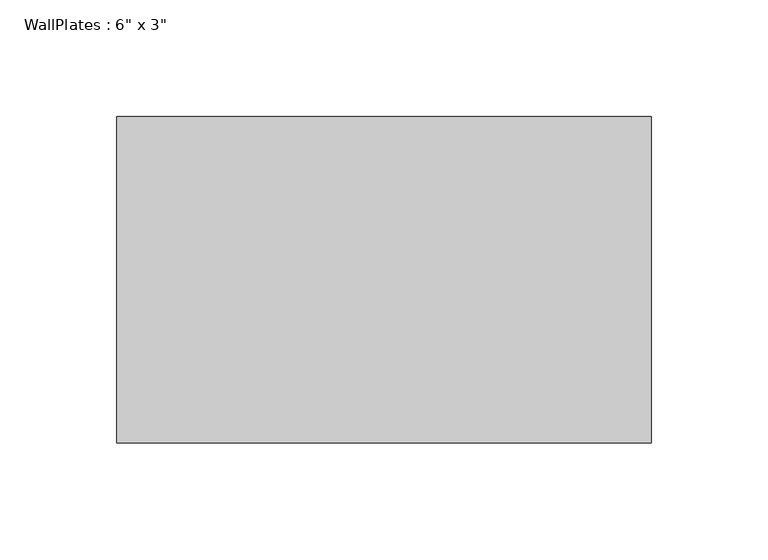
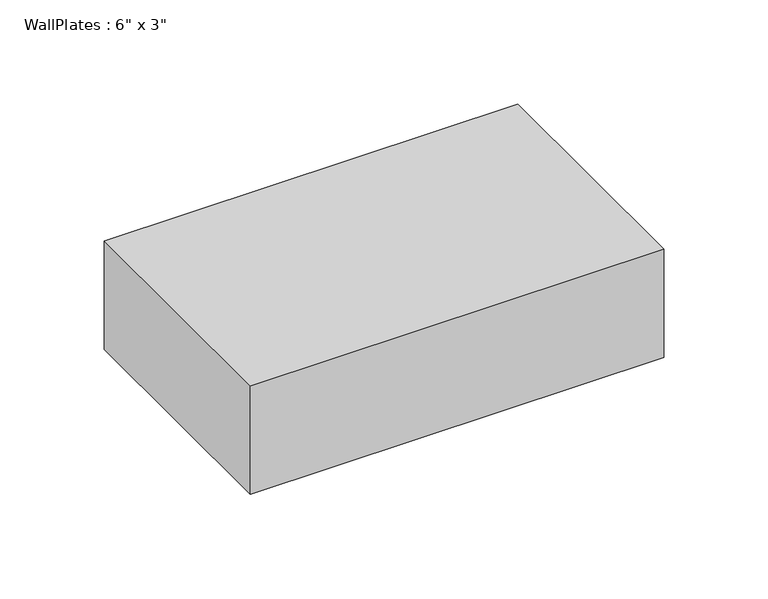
"""IFC4 building model written with IfcOpenShell, lengths in millimetres: beam geometry."""

from ifc_helpers import new_model, si_unit, frame, origin, place, context, project, spatial, polyline, outline, extrude, source, transform, mapped, element, save


def beam_9a5d82eb(model_context):
    return source(origin(), model_context, "Body", "SweptSolid", [
        extrude(outline(polyline([(-114.295, -69.85), (-114.295, 69.85), (114.295, 69.85), (114.295, -69.85), (-114.295, -69.85)])), frame((0.0, 0.0, -31.75), z_axis=(0.0, 0.0, 1.0), x_axis=(1.0, 0.0, 0.0)), (0.0, 0.0, 1.0), 63.5),
    ])


if __name__ == "__main__":
    model = new_model("IFC4")
    model_context = context("Model", 3, world=origin())
    ifc_project = project(units=[si_unit("LENGTHUNIT", "METRE", prefix="MILLI")], contexts=[model_context])
    site = spatial("IfcSite", under=ifc_project)
    building = spatial("IfcBuilding", under=site)
    placement = place(None, origin())
    beam_shape = beam_9a5d82eb(model_context)
    element("IfcBeam", 1, ObjectType="WallPlates : 6\" x 3\"", at=placement, inside=building, context=model_context, shape_type="MappedRepresentation", body=[
        mapped(beam_shape, transform((0.0, 0.0, 0.0), x_axis=(1.0, 0.0, 0.0), y_axis=(0.0, 1.0, 0.0), z_axis=(0.0, 0.0, 1.0))),
    ])
    save(model, "model.ifc")
